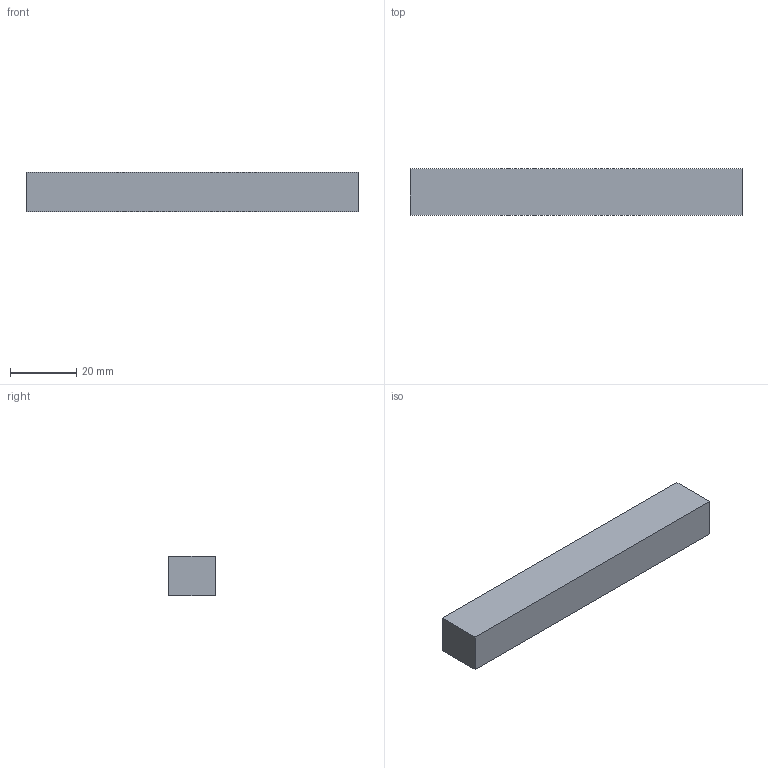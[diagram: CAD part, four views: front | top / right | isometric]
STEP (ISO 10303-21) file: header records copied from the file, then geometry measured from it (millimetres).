
FILE_DESCRIPTION(('Open CASCADE Model'),'2;1');
FILE_NAME('Open CASCADE Shape Model','2026-10-20T13:19:35',('Author'),( 'Open CASCADE'),'Open CASCADE STEP processor 7.9','Open CASCADE 7.9' ,'Unknown');
FILE_SCHEMA(('AUTOMOTIVE_DESIGN { 1 0 10303 214 1 1 1 1 }'));
Length unit declared in the file: millimetre
Products named in the file (1): Open CASCADE STEP translator 7.9 31
Bounding box: 100 x 14 x 12 mm (x, y, z)
Volume: 16800 mm3; surface area: 5536 mm2
Topology: 1 solids, 1 shells, 6 faces, 12 edges, 8 vertices
Faces by surface type: plane 6
Entity records: 322 total; most frequent: CARTESIAN_POINT 51, DIRECTION 50, LINE 36, VECTOR 36, ORIENTED_EDGE 24, PCURVE 24, DEFINITIONAL_REPRESENTATION 24, EDGE_CURVE 12
